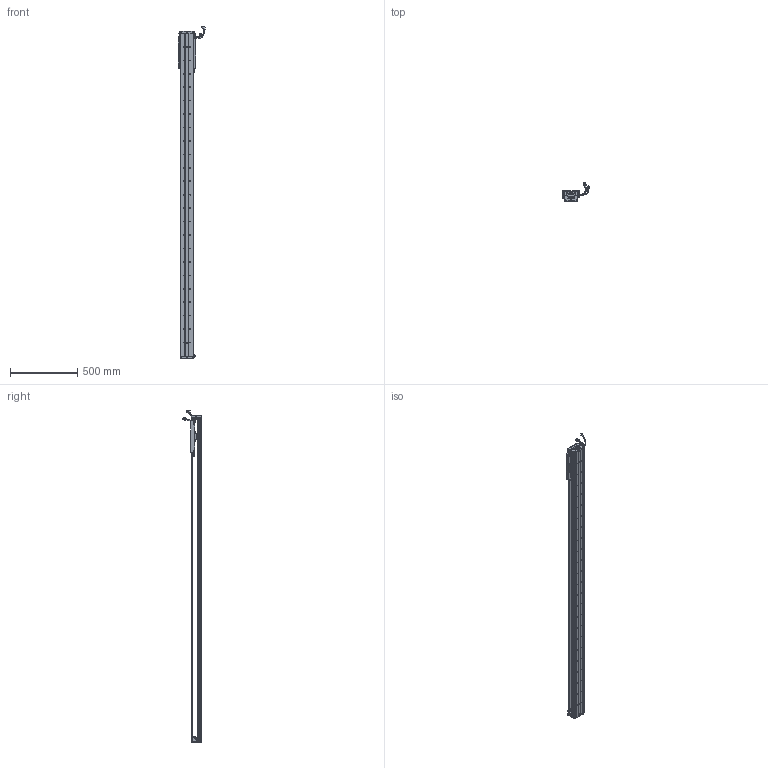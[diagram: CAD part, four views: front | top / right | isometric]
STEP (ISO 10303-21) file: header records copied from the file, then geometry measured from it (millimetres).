
FILE_DESCRIPTION (( 'STEP AP203' ), '1' );
FILE_NAME ('Z3-RY100D-1-L500-B-K.SLDASM_2100.step', '2021-05-17T02:51:49', ( '盈信电脑' ), ( '东莞市道滘镇水果街19号' ), 'SwSTEP 2.0', 'SolidWorks 2016', '' );
FILE_SCHEMA (( 'CONFIG_CONTROL_DESIGN' ));
Length unit declared in the file: millimetre
Products named in the file (36): SCREW-M1.7; Z-100詩湍傷裔啣; SCREW-M1.6-2; Z3-RY100D-500-倰第菁釱_2100; SEAL; Z3-RY100-L500詩湍90mm遵_2100; 榋妏寠巭燃_暯_M2_2; COVER; SCREW-M1.7-1; Z-RY100D覜茼んえ; Z-RY100D詩湍狟揤裔; SCREW-M1.6-3; PSLH080_PSLF2; 100-Z-臏賑輸盄裔(21遴); SCALE; SCALE-Part-2; HARNESS-Part-2; 140蚥薯蝶輸; SCREW-M1.6; LABEL; Z-RY100D詩湍奻揤裔; HOLDER0; SCALE-Part-1; SHIELDPLATE; 080黍杅芛假蚾釱21遴; 140雄赽晤鎢ん堤盄; Z3-RY100D-1-L500-B-K.SLDASM_2100; HARNESS-Part-1; PBU_SHEET; SEAL-Part-1; SCREW-M1.6-1; HARNESS; COVER-Part-1; Z3-RY100铝滑块（21款）; 覜茼ん672; LABEL-Part-1
Assembly tree (43 placements, depth 4):
  Z3-RY100D-1-L500-B-K.SLDASM_2100
    Z3-RY100D-500-倰第菁釱_2100
    Z3-RY100铝滑块（21款）
    PSLH080_PSLF2
      SCALE
        SCALE-Part-1
        SCALE-Part-2
      HARNESS
        HARNESS-Part-1
        HARNESS-Part-2
      LABEL
        LABEL-Part-1
      COVER
        COVER-Part-1
      SEAL
        SEAL-Part-1
      榋妏寠巭燃_暯_M2_2
      SHIELDPLATE
      SCREW-M1.7
      SCREW-M1.7-1
      PBU_SHEET
      SCREW-M1.6
      SCREW-M1.6-1
      SCREW-M1.6-2
      SCREW-M1.6-3
      HOLDER0
    080黍杅芛假蚾釱21遴
    Z-100詩湍傷裔啣  x2
    140蚥薯蝶輸  x2
    覜茼ん672  x3
    Z-RY100D覜茼んえ  x3
    100-Z-臏賑輸盄裔(21遴)
    140雄赽晤鎢ん堤盄
    Z3-RY100-L500詩湍90mm遵_2100
    Z-RY100D詩湍狟揤裔  x2
    Z-RY100D詩湍奻揤裔  x2
Bounding box: 205.84 x 136.11 x 2470.43 mm (x, y, z)
Volume: 4577481.1 mm3; surface area: 1796784.6 mm2
Topology: 38 solids, 38 shells, 2933 faces, 7957 edges, 5072 vertices
Faces by surface type: cylinder 1414, plane 1171, cone 226, torus 69, bspline 53
Entity records: 84095 total; most frequent: CARTESIAN_POINT 17621, DIRECTION 13527, ORIENTED_EDGE 12794, EDGE_CURVE 6397, AXIS2_PLACEMENT_3D 5070, VERTEX_POINT 4140, LINE 3387, VECTOR 3387
